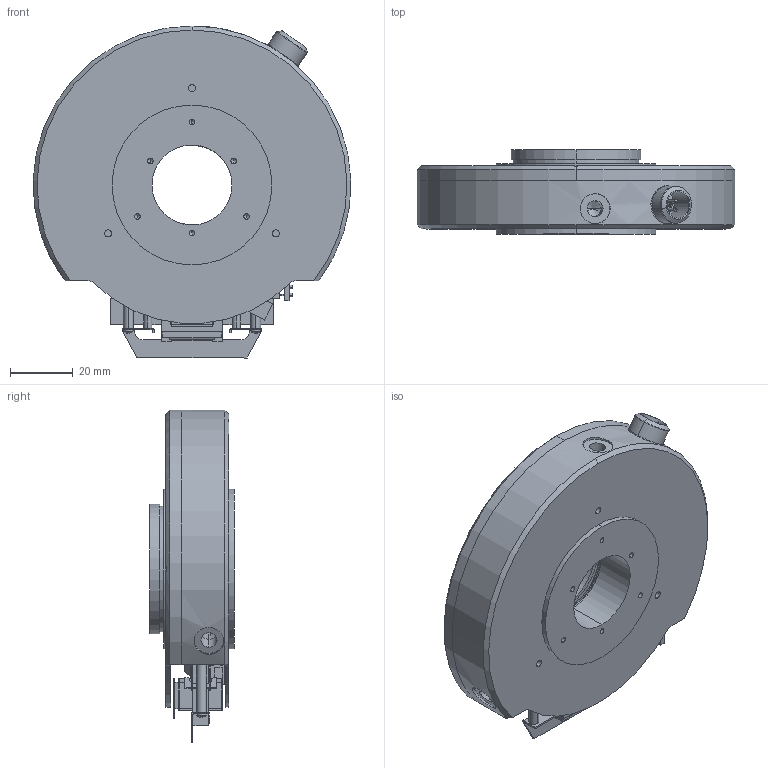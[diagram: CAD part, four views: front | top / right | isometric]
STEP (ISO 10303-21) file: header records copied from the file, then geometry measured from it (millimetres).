
FILE_DESCRIPTION (( 'STEP AP214' ), '1' );
FILE_NAME ('NO VSR14-25 XRSR14 3D Model Housed.STEP', '2013-12-30T16:44:11', ( 'helen' ), ( 'Microsoft' ), 'SwSTEP 2.0', 'SolidWorks 2010', '' );
FILE_SCHEMA (( 'AUTOMOTIVE_DESIGN' ));
Length unit declared in the file: inch
Products named in the file (1): NO VSR14-25 XRSR14 3D Model Housed
Bounding box: 101.03 x 26.8 x 105.56 mm (x, y, z)
Volume: 79964.1 mm3; surface area: 70233.8 mm2
Topology: 35 solids, 35 shells, 2728 faces, 6977 edges, 4323 vertices
Faces by surface type: cone 892, cylinder 858, plane 854, torus 86, bspline 28, sphere 10
Entity records: 121320 total; most frequent: CARTESIAN_POINT 17243, DIRECTION 15380, ORIENTED_EDGE 13890, EDGE_CURVE 6945, AXIS2_PLACEMENT_3D 6000, VERTEX_POINT 4323, VECTOR 3380, LINE 3380
